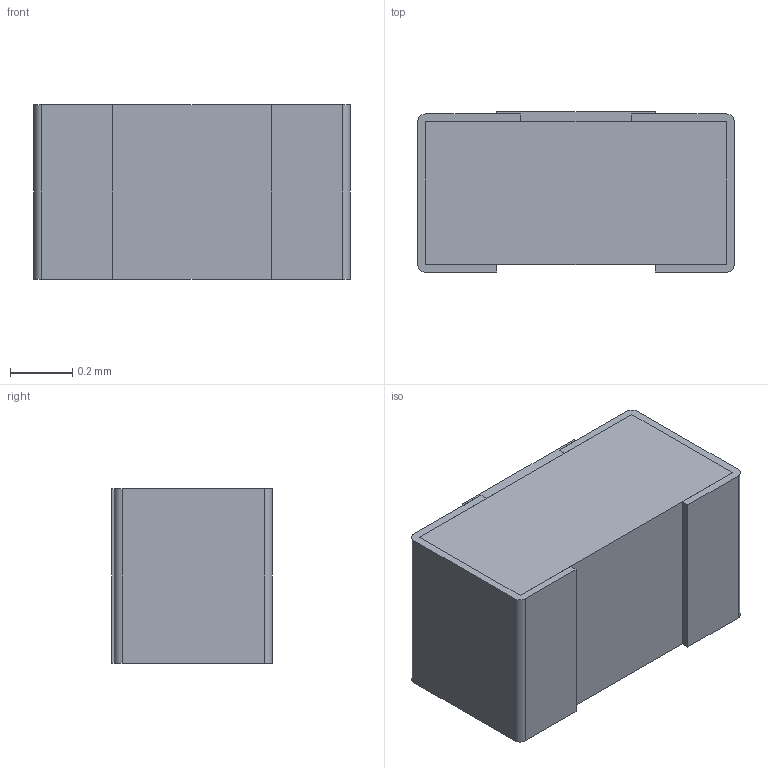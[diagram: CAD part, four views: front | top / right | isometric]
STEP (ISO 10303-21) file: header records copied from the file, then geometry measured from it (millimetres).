
FILE_DESCRIPTION(/* description */ (''),/* implementation_level */ '2;1');
FILE_NAME(/* name */ 'C:\Users\Public\Documents\Autodesk\Inventor LT 2014\Workspace\Vishay\STEP Files\M55342-11.stp',/* time_stamp */ '2019-09-11T15:09:33-05:00',/* author */ ('Neil'),/* organization */ (''),/* preprocessor_version */ 'ST-DEVELOPER v15.2',/* originating_system */ 'Autodesk Inventor LT ',/* authorisation */ '');
FILE_SCHEMA (('AUTOMOTIVE_DESIGN { 1 0 10303 214 3 1 1 }'));
Length unit declared in the file: inch
Products named in the file (1): M55342-11
Bounding box: 1.02 x 0.52 x 0.56 mm (x, y, z)
Volume: 0.3 mm3; surface area: 5.9 mm2
Topology: 5 solids, 5 shells, 50 faces, 120 edges, 80 vertices
Faces by surface type: plane 46, cylinder 4
Entity records: 1482 total; most frequent: CARTESIAN_POINT 251, ORIENTED_EDGE 240, DIRECTION 230, EDGE_CURVE 120, LINE 112, VECTOR 112, VERTEX_POINT 80, AXIS2_PLACEMENT_3D 59
